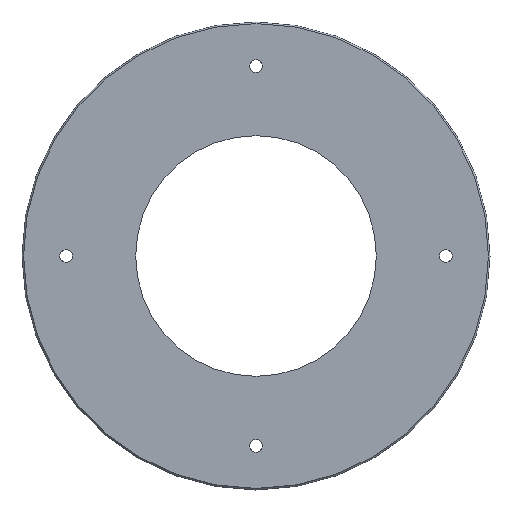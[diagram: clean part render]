
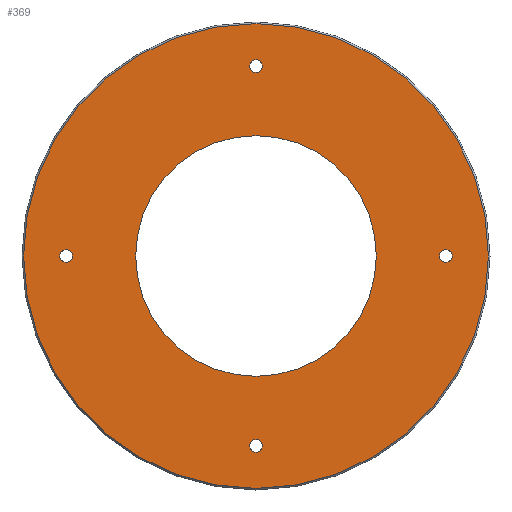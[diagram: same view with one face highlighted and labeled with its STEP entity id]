
A CAD part, left-side view. The second image highlights one B-rep face of the part: STEP entity #369.
In plain terms, the highlighted planar face has unit normal (-1, 0, 0).
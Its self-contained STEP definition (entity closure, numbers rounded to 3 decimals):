
#10 = VERTEX_POINT ( 'NONE', #84 ) ;
#11 = VERTEX_POINT ( 'NONE', #514 ) ;
#14 = AXIS2_PLACEMENT_3D ( 'NONE', #271, #416, #240 ) ;
#28 = DIRECTION ( 'NONE',  ( -1., 0., 0. ) ) ;
#29 = CARTESIAN_POINT ( 'NONE',  ( 0., 0., 0. ) ) ;
#39 = EDGE_CURVE ( 'NONE', #85, #532, #553, .T. ) ;
#50 = FACE_BOUND ( 'NONE', #578, .T. ) ;
#67 = AXIS2_PLACEMENT_3D ( 'NONE', #29, #397, #171 ) ;
#73 = EDGE_CURVE ( 'NONE', #107, #192, #429, .T. ) ;
#76 = AXIS2_PLACEMENT_3D ( 'NONE', #127, #410, #89 ) ;
#84 = CARTESIAN_POINT ( 'NONE',  ( 0., 0., -76.45 ) ) ;
#85 = VERTEX_POINT ( 'NONE', #412 ) ;
#89 = DIRECTION ( 'NONE',  ( 0., 0., -1. ) ) ;
#93 = CARTESIAN_POINT ( 'NONE',  ( 0., 0., -116.65 ) ) ;
#94 = DIRECTION ( 'NONE',  ( -1., 0., 0. ) ) ;
#95 = CIRCLE ( 'NONE', #525, 4. ) ;
#107 = VERTEX_POINT ( 'NONE', #359 ) ;
#112 = DIRECTION ( 'NONE',  ( -1., 0., 0. ) ) ;
#113 = DIRECTION ( 'NONE',  ( 0., 0., 1. ) ) ;
#117 = DIRECTION ( 'NONE',  ( 0., 0., 1. ) ) ;
#122 = CIRCLE ( 'NONE', #148, 4. ) ;
#127 = CARTESIAN_POINT ( 'NONE',  ( 0., 0., 0. ) ) ;
#134 = ORIENTED_EDGE ( 'NONE', *, *, #145, .F. ) ;
#137 = EDGE_CURVE ( 'NONE', #249, #569, #365, .T. ) ;
#144 = CARTESIAN_POINT ( 'NONE',  ( 0., 120.65, 0. ) ) ;
#145 = EDGE_CURVE ( 'NONE', #433, #340, #406, .T. ) ;
#146 = DIRECTION ( 'NONE',  ( -1., 0., 0. ) ) ;
#147 = CIRCLE ( 'NONE', #385, 4. ) ;
#148 = AXIS2_PLACEMENT_3D ( 'NONE', #231, #560, #279 ) ;
#155 = DIRECTION ( 'NONE',  ( -1., 0., 0. ) ) ;
#159 = AXIS2_PLACEMENT_3D ( 'NONE', #448, #393, #213 ) ;
#162 = DIRECTION ( 'NONE',  ( -1., 0., 0. ) ) ;
#164 = CARTESIAN_POINT ( 'NONE',  ( 0., 0., 0. ) ) ;
#169 = ORIENTED_EDGE ( 'NONE', *, *, #229, .F. ) ;
#171 = DIRECTION ( 'NONE',  ( 0., 0., -1. ) ) ;
#178 = CIRCLE ( 'NONE', #159, 76.45 ) ;
#192 = VERTEX_POINT ( 'NONE', #402 ) ;
#193 = AXIS2_PLACEMENT_3D ( 'NONE', #450, #313, #593 ) ;
#195 = ORIENTED_EDGE ( 'NONE', *, *, #501, .F. ) ;
#201 = AXIS2_PLACEMENT_3D ( 'NONE', #570, #28, #342 ) ;
#203 = ORIENTED_EDGE ( 'NONE', *, *, #469, .F. ) ;
#206 = CARTESIAN_POINT ( 'NONE',  ( 0., 0., -120.65 ) ) ;
#213 = DIRECTION ( 'NONE',  ( 0., 0., 1. ) ) ;
#229 = EDGE_CURVE ( 'NONE', #532, #85, #147, .T. ) ;
#231 = CARTESIAN_POINT ( 'NONE',  ( 0., 0., 120.65 ) ) ;
#240 = DIRECTION ( 'NONE',  ( 0., 0., 1. ) ) ;
#249 = VERTEX_POINT ( 'NONE', #602 ) ;
#264 = EDGE_CURVE ( 'NONE', #10, #11, #573, .T. ) ;
#266 = PLANE ( 'NONE',  #193 ) ;
#269 = FACE_BOUND ( 'NONE', #555, .T. ) ;
#271 = CARTESIAN_POINT ( 'NONE',  ( 0., -120.65, 0. ) ) ;
#275 = AXIS2_PLACEMENT_3D ( 'NONE', #206, #146, #113 ) ;
#278 = EDGE_CURVE ( 'NONE', #513, #541, #95, .T. ) ;
#279 = DIRECTION ( 'NONE',  ( 0., 0., 1. ) ) ;
#291 = ORIENTED_EDGE ( 'NONE', *, *, #264, .F. ) ;
#302 = FACE_BOUND ( 'NONE', #556, .T. ) ;
#306 = DIRECTION ( 'NONE',  ( -1., 0., 0. ) ) ;
#313 = DIRECTION ( 'NONE',  ( 1., 0., 0. ) ) ;
#319 = FACE_BOUND ( 'NONE', #400, .T. ) ;
#321 = ORIENTED_EDGE ( 'NONE', *, *, #137, .F. ) ;
#324 = ORIENTED_EDGE ( 'NONE', *, *, #73, .F. ) ;
#329 = FACE_OUTER_BOUND ( 'NONE', #454, .T. ) ;
#330 = CARTESIAN_POINT ( 'NONE',  ( 0., 0., 116.65 ) ) ;
#340 = VERTEX_POINT ( 'NONE', #510 ) ;
#342 = DIRECTION ( 'NONE',  ( 0., 0., 1. ) ) ;
#352 = DIRECTION ( 'NONE',  ( 0., 0., 1. ) ) ;
#353 = EDGE_CURVE ( 'NONE', #569, #249, #527, .T. ) ;
#359 = CARTESIAN_POINT ( 'NONE',  ( 0., -120.65, -4. ) ) ;
#365 = CIRCLE ( 'NONE', #76, 147.7 ) ;
#366 = AXIS2_PLACEMENT_3D ( 'NONE', #387, #112, #492 ) ;
#369 = ADVANCED_FACE ( 'NONE', ( #329, #269, #319, #512, #302, #50 ), #266, .F. ) ;
#381 = EDGE_CURVE ( 'NONE', #11, #10, #178, .T. ) ;
#385 = AXIS2_PLACEMENT_3D ( 'NONE', #490, #155, #352 ) ;
#387 = CARTESIAN_POINT ( 'NONE',  ( 0., -120.65, 0. ) ) ;
#392 = CARTESIAN_POINT ( 'NONE',  ( 0., 0., 124.65 ) ) ;
#393 = DIRECTION ( 'NONE',  ( -1., 0., 0. ) ) ;
#397 = DIRECTION ( 'NONE',  ( 1., 0., 0. ) ) ;
#400 = EDGE_LOOP ( 'NONE', ( #134, #203 ) ) ;
#402 = CARTESIAN_POINT ( 'NONE',  ( 0., -120.65, 4. ) ) ;
#406 = CIRCLE ( 'NONE', #201, 4. ) ;
#408 = ORIENTED_EDGE ( 'NONE', *, *, #381, .F. ) ;
#410 = DIRECTION ( 'NONE',  ( 1., 0., 0. ) ) ;
#412 = CARTESIAN_POINT ( 'NONE',  ( 0., 120.65, 4. ) ) ;
#416 = DIRECTION ( 'NONE',  ( -1., 0., 0. ) ) ;
#429 = CIRCLE ( 'NONE', #14, 4. ) ;
#432 = DIRECTION ( 'NONE',  ( 0., 0., 1. ) ) ;
#433 = VERTEX_POINT ( 'NONE', #93 ) ;
#435 = EDGE_CURVE ( 'NONE', #541, #513, #122, .T. ) ;
#447 = CARTESIAN_POINT ( 'NONE',  ( 0., 0., -147.7 ) ) ;
#448 = CARTESIAN_POINT ( 'NONE',  ( 0., 0., 0. ) ) ;
#450 = CARTESIAN_POINT ( 'NONE',  ( 0., 147.7, 0. ) ) ;
#454 = EDGE_LOOP ( 'NONE', ( #518, #321 ) ) ;
#459 = AXIS2_PLACEMENT_3D ( 'NONE', #164, #306, #117 ) ;
#469 = EDGE_CURVE ( 'NONE', #340, #433, #542, .T. ) ;
#478 = ORIENTED_EDGE ( 'NONE', *, *, #435, .F. ) ;
#485 = ORIENTED_EDGE ( 'NONE', *, *, #39, .F. ) ;
#490 = CARTESIAN_POINT ( 'NONE',  ( 0., 120.65, 0. ) ) ;
#492 = DIRECTION ( 'NONE',  ( 0., 0., 1. ) ) ;
#497 = DIRECTION ( 'NONE',  ( 0., 0., 1. ) ) ;
#501 = EDGE_CURVE ( 'NONE', #192, #107, #582, .T. ) ;
#510 = CARTESIAN_POINT ( 'NONE',  ( 0., 0., -124.65 ) ) ;
#512 = FACE_BOUND ( 'NONE', #601, .T. ) ;
#513 = VERTEX_POINT ( 'NONE', #392 ) ;
#514 = CARTESIAN_POINT ( 'NONE',  ( 0., 0., 76.45 ) ) ;
#518 = ORIENTED_EDGE ( 'NONE', *, *, #353, .F. ) ;
#525 = AXIS2_PLACEMENT_3D ( 'NONE', #543, #162, #497 ) ;
#527 = CIRCLE ( 'NONE', #67, 147.7 ) ;
#532 = VERTEX_POINT ( 'NONE', #571 ) ;
#536 = AXIS2_PLACEMENT_3D ( 'NONE', #144, #94, #432 ) ;
#541 = VERTEX_POINT ( 'NONE', #330 ) ;
#542 = CIRCLE ( 'NONE', #275, 4. ) ;
#543 = CARTESIAN_POINT ( 'NONE',  ( 0., 0., 120.65 ) ) ;
#553 = CIRCLE ( 'NONE', #536, 4. ) ;
#555 = EDGE_LOOP ( 'NONE', ( #408, #291 ) ) ;
#556 = EDGE_LOOP ( 'NONE', ( #606, #478 ) ) ;
#560 = DIRECTION ( 'NONE',  ( -1., 0., 0. ) ) ;
#569 = VERTEX_POINT ( 'NONE', #447 ) ;
#570 = CARTESIAN_POINT ( 'NONE',  ( 0., 0., -120.65 ) ) ;
#571 = CARTESIAN_POINT ( 'NONE',  ( 0., 120.65, -4. ) ) ;
#573 = CIRCLE ( 'NONE', #459, 76.45 ) ;
#578 = EDGE_LOOP ( 'NONE', ( #485, #169 ) ) ;
#582 = CIRCLE ( 'NONE', #366, 4. ) ;
#593 = DIRECTION ( 'NONE',  ( 0., 0., -1. ) ) ;
#601 = EDGE_LOOP ( 'NONE', ( #195, #324 ) ) ;
#602 = CARTESIAN_POINT ( 'NONE',  ( 0., 0., 147.7 ) ) ;
#606 = ORIENTED_EDGE ( 'NONE', *, *, #278, .F. ) ;
